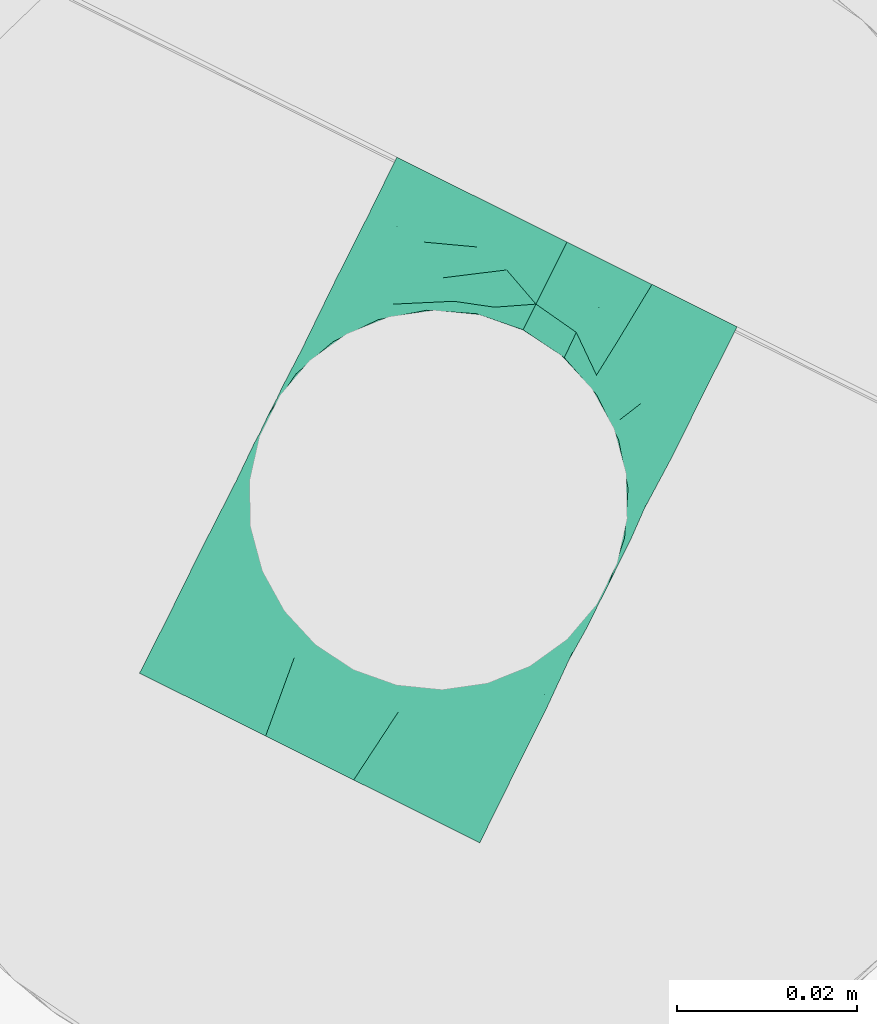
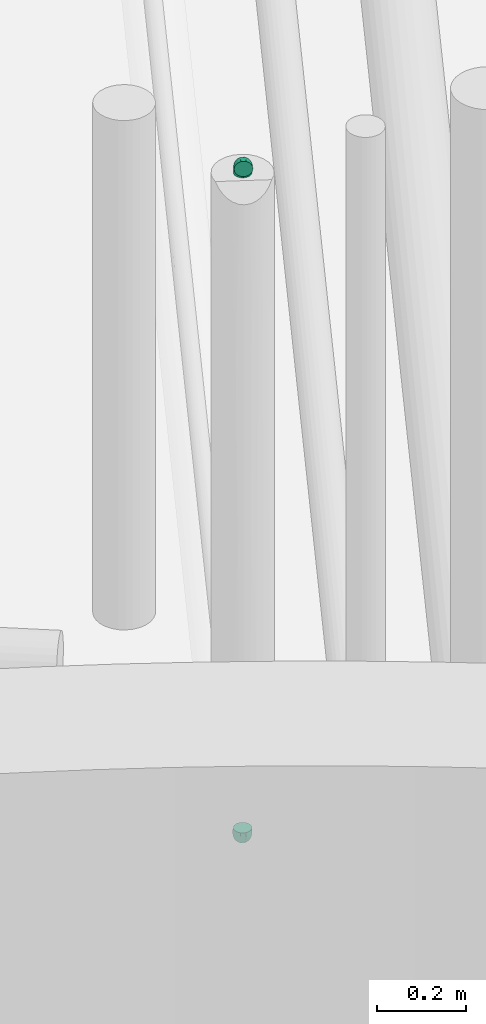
# One storey, part 37 of 47: 2 flow fittings.
"""IFC2X3 building model written with IfcOpenShell, lengths in metres."""

from ifc_helpers import new_model, entity, si_unit, converted_unit, derived_unit, direction, frame, origin, place, context, subcontext, project, spatial, faceted_brep, source, transform, mapped, type_object, type_shapes, element, save


model = new_model("IFC2X3")

# Units and contexts
model_context = context("Model", 3, precision=1e-05, world=origin(), true_north=direction((0.894925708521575, 0.446215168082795)))
context_of_model = context(None, 3, precision=1e-05, world=origin(), true_north=direction((0.894925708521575, 0.446215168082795)))
body_context = subcontext(model_context, "Body", "Model", "MODEL_VIEW")
ifc_project = project(units=[si_unit("LENGTHUNIT", "METRE"), si_unit("AREAUNIT", "SQUARE_METRE"), si_unit("VOLUMEUNIT", "CUBIC_METRE"), converted_unit("PLANEANGLEUNIT", "DEGREE", entity("IfcRatioMeasure", 0.0174532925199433), si_unit("PLANEANGLEUNIT", "RADIAN"), dimensions=[0, 0, 0, 0, 0, 0, 0]), si_unit("MASSUNIT", "GRAM", prefix="KILO"), si_unit("TIMEUNIT", "SECOND"), si_unit("FREQUENCYUNIT", "HERTZ"), si_unit("THERMODYNAMICTEMPERATUREUNIT", "DEGREE_CELSIUS"), derived_unit("THERMALTRANSMITTANCEUNIT", [(si_unit("MASSUNIT", "GRAM", prefix="KILO"), 1), (si_unit("THERMODYNAMICTEMPERATUREUNIT", "KELVIN"), -1), (si_unit("TIMEUNIT", "SECOND"), -3)]), derived_unit("VOLUMETRICFLOWRATEUNIT", [(si_unit("LENGTHUNIT", "METRE"), 3), (si_unit("TIMEUNIT", "SECOND"), -1)]), si_unit("ELECTRICCURRENTUNIT", "AMPERE"), si_unit("ELECTRICVOLTAGEUNIT", "VOLT"), si_unit("POWERUNIT", "WATT"), si_unit("FORCEUNIT", "NEWTON", prefix="KILO"), si_unit("ILLUMINANCEUNIT", "LUX"), si_unit("LUMINOUSFLUXUNIT", "LUMEN"), si_unit("LUMINOUSINTENSITYUNIT", "CANDELA"), si_unit("PRESSUREUNIT", "PASCAL")], contexts=[model_context, context_of_model])

# Site, building, storey
site_placement = place(None, frame((218.228324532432, 584.720189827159, 0.0), z_axis=(0.0, 0.0, 1.0), x_axis=(0.446215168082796, 0.894925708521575, 0.0)))
site = spatial("IfcSite", under=ifc_project, at=site_placement, Name="Default", CompositionType="ELEMENT")
building_placement = place(site_placement, origin())
building = spatial("IfcBuilding", under=site, at=building_placement, CompositionType="ELEMENT")
storey_placement = place(building_placement, frame((0.0, 0.0, 4.69)))
storey = spatial("IfcBuildingStorey", under=building, at=storey_placement, Name="1 - Piano Primo", CompositionType="ELEMENT", Elevation=4.69)

# Flow fittings
pipe_fitting_type = type_object("IfcPipeFittingType", Name="Standard", PredefinedType="NOTDEFINED")
shared_shape = source(origin(), body_context, "Body", "Brep", [
    faceted_brep([(-0.0319999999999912, 0.0105499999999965, -0.0182731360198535), (-0.0319999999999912, 0.00546108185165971, -0.0203810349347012), (-0.0319999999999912, 0.0, -0.0211000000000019), (-0.0319999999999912, -0.00546108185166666, -0.0203810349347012), (-0.0319999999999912, -0.0105500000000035, -0.0182731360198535), (-0.0319999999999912, -0.0149199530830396, -0.0149199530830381), (-0.0319999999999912, -0.0182731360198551, -0.0105500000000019), (-0.0319999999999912, -0.0203810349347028, -0.00546108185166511), (-0.0319999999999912, -0.0211000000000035, 0.0), (-0.0319999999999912, -0.0203810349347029, 0.00546108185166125), (-0.0319999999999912, -0.0182731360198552, 0.0105499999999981), (-0.0319999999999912, -0.0149199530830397, 0.0149199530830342), (-0.0319999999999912, -0.0105500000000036, 0.0182731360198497), (-0.0319999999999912, -0.00546108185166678, 0.0203810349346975), (-0.0319999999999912, 0.0, 0.0210999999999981), (-0.0319999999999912, 0.00546108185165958, 0.0203810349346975), (-0.0319999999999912, 0.00800554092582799, 0.0193270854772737), (-0.0319999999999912, 0.0105499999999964, 0.0182731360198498), (-0.0319999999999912, 0.0149199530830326, 0.0149199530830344), (-0.0319999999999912, 0.0182731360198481, 0.0105499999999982), (-0.0319999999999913, 0.0203810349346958, 0.00546108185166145), (-0.0319999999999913, 0.0210999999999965, 0.0), (-0.0319999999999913, 0.0203810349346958, -0.00546108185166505), (-0.0319999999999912, 0.0182731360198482, -0.0105500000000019), (-0.0319999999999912, 0.0149199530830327, -0.014919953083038), (0.0, 0.0319999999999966, -0.0211000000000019), (-0.00546108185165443, 0.0319999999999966, -0.0203810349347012), (-0.0105499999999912, 0.0319999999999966, -0.0182731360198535), (-0.0149199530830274, 0.0319999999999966, -0.014919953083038), (-0.0182731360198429, 0.0319999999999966, -0.0105500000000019), (-0.0203810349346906, 0.0319999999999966, -0.00546108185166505), (-0.0210999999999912, 0.0319999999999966, 0.0), (-0.0203810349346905, 0.0319999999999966, 0.00546108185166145), (-0.0182731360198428, 0.0319999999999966, 0.0105499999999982), (-0.0149199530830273, 0.0319999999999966, 0.0149199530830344), (-0.0105499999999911, 0.0319999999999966, 0.0182731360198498), (-0.00800554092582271, 0.0319999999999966, 0.0193270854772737), (-0.0054610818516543, 0.0319999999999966, 0.0203810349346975), (0.0, 0.0319999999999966, 0.0210999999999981), (0.00546108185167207, 0.0319999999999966, 0.0203810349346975), (0.0105500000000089, 0.0319999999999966, 0.0182731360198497), (0.014919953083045, 0.0319999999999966, 0.0149199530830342), (0.0165965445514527, 0.0319999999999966, 0.0127349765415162), (0.0182731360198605, 0.0319999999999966, 0.0105499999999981), (0.0203810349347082, 0.0319999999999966, 0.00546108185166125), (0.0211000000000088, 0.0319999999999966, 0.0), (0.0203810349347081, 0.0319999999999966, -0.00546108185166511), (0.0182731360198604, 0.0319999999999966, -0.0105500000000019), (0.0149199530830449, 0.0319999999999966, -0.0149199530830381), (0.0105500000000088, 0.0319999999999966, -0.0182731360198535), (0.00546108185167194, 0.0319999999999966, -0.0203810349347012), (-0.00222604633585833, 0.023728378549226, 0.0210713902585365), (0.00334042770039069, 0.0236615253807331, 0.0206549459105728), (-0.00900645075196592, -0.00960577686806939, 0.014276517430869), (-0.0209292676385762, -0.0130218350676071, 0.0154568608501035), (-0.0145908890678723, -0.0153912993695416, 0.0101692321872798), (-0.0217190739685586, -0.0190549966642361, 0.0), (-0.0220282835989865, -0.0191631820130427, 0.00633714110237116), (0.0170981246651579, 0.0147219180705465, 0.00657454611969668), (0.0192914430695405, 0.0230467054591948, 0.00652112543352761), (0.0165175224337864, 0.0200572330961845, 0.0110652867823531), (-0.0238201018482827, -0.0169140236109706, 0.0116484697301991), (0.00422109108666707, 0.00733524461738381, 0.0174775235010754), (-0.00183936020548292, -0.00157306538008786, 0.0165161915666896), (0.00494762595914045, 0.000859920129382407, 0.0133740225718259), (-0.0231100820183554, -0.0085835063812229, 0.0188172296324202), (-0.0268497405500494, 0.00624646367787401, 0.0203052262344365), (-0.0237283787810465, 0.00222604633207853, 0.0210713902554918), (0.00636919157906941, -0.00389652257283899, 0.00481660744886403), (0.00885765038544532, 0.00100436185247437, 0.00856309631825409), (0.00317363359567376, -0.0049364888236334, 0.00916667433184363), (0.0190549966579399, 0.021719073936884, 0.0), (-0.0249753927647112, 0.0127272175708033, 0.0176991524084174), (-0.0219437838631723, 0.00803535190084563, 0.0202256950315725), (-0.0080353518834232, 0.0219437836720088, 0.0202256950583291), (-0.0127272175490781, 0.0249753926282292, 0.017699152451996), (-0.0135012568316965, 0.0177999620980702, 0.0192321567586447), (-0.0259094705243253, 0.0169310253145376, 0.0140445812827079), (-0.0243638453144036, -0.00336513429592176, 0.0206817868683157), (-0.0083182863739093, -0.00215621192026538, 0.0188085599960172), (-0.0155459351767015, -0.00207489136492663, 0.0202758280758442), (-0.014962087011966, -0.00661982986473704, 0.0184646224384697), (-0.024116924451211, 0.0234834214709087, 0.00540852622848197), (-0.0260761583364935, 0.02023403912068, 0.00952662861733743), (0.0131866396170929, 0.0228304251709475, 0.0156902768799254), (0.0177597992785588, 0.0259911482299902, 0.0108087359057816), (-0.0196183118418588, 0.0196183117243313, 0.0153381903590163), (0.00836704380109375, 0.0205044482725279, 0.0185948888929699), (-0.0054260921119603, 0.0157915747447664, 0.0210819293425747), (-0.0119915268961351, 0.0119915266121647, 0.0207723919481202), (-0.00791438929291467, 0.00583732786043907, 0.0207972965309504), (-0.000718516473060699, -0.00512241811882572, 0.0130949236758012), (-0.0157915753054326, 0.00542609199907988, 0.0210819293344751), (-0.0175404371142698, 0.0125520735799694, 0.0196189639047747), (-0.00624646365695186, 0.0268497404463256, 0.0203052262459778), (-0.0030660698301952, -0.011302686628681, 0.0), (0.000544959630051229, -0.00927179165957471, 0.00474379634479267), (-0.00924044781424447, -0.0152715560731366, 0.00513668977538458), (-0.0025011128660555, 0.00396354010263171, 0.0192243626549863), (0.0111873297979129, 0.0121560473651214, 0.0142858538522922), (0.0142348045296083, 0.013520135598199, 0.0113438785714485), (-0.021173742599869, 0.0270533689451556, 0.00642753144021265), (0.0170580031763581, 0.0116795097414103, 0.0), (-0.0209433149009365, 0.0244619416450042, 0.0099283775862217), (-0.0169310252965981, 0.0259094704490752, 0.0140445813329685), (0.00815725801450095, 0.0134412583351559, 0.0171881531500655), (0.00158972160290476, 0.0138945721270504, 0.0201812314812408), (-0.0242925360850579, 0.0242925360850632, 0.0), (-0.0156139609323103, -0.0173765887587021, 0.00665048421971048), (-0.0116795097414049, -0.0170580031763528, 0.0), (0.00554737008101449, -0.00554737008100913, 0.0), (0.0113026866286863, 0.00306606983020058, 0.0), (0.0108450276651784, 0.00147671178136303, 0.0045400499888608), (0.0112958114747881, 0.00704585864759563, 0.0110546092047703), (-0.0180945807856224, 0.016544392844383, 0.0178760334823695), (-0.00497912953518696, -0.0112747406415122, 0.00913935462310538), (-0.00893572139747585, -0.00624353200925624, 0.0168798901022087), (-0.0156916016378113, 0.021034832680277, 0.0171095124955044), (-0.00342686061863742, 0.0112043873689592, 0.0208340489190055), (0.0134913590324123, 0.00703921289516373, 0.00704441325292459), (0.00841568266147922, 0.00627762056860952, 0.0138629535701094), (0.0139147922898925, 0.0140606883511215, -0.0120870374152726), (0.0170731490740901, 0.0143997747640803, -0.00631163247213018), (0.0133973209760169, 0.00669108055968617, -0.00679612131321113), (-0.0167699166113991, 0.00347561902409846, -0.0210973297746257), (-0.0230301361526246, 0.00785302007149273, -0.0201559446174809), (-0.0147344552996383, 0.0101848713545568, -0.0206819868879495), (-0.0249600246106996, 0.0021654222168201, -0.0210570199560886), (-0.0269235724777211, 0.0219306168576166, -0.00396891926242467), (-0.0108637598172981, -0.00653031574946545, -0.0173920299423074), (-0.0194617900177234, -0.00823414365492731, -0.018502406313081), (-0.0125598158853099, -0.00220699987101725, -0.0197802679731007), (-0.0268338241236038, 0.0205122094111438, -0.00828818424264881), (-0.024883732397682, 0.0171837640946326, -0.0142474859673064), (-0.0228721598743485, -0.0192710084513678, -0.00648971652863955), (-0.0193464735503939, -0.0164084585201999, -0.0109522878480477), (-0.0143997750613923, -0.0170731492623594, -0.00631163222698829), (-0.0266001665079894, -0.0170138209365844, -0.0120648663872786), (-0.00785301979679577, 0.0230301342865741, -0.0201559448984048), (-0.0252598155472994, 0.0126864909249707, -0.0176618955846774), (-0.0230841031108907, -0.0033100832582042, -0.0206322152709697), (-0.020019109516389, 0.0119073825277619, -0.0192649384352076), (-0.0225715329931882, -0.0131689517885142, -0.0156588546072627), (0.0164084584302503, 0.0193464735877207, -0.0109522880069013), (0.0170138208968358, 0.0266001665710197, -0.0120648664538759), (0.019271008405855, 0.0228721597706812, -0.00648971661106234), (-0.0105318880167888, -0.0106441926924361, -0.0140486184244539), (-0.017183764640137, 0.0248837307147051, -0.014247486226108), (-0.0266864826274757, -0.0086126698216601, -0.0191036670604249), (0.0033100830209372, 0.0230841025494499, -0.0206322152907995), (-0.0222937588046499, 0.0222937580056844, -0.0105497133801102), (-0.020353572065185, 0.0203535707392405, -0.0142844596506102), (-0.0221527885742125, 0.0262370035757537, -0.00460941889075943), (-0.00807833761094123, 0.00807833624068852, -0.0210204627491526), (-0.0126864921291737, 0.0252598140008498, -0.0176618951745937), (-0.0021654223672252, 0.0249600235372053, -0.0210570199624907), (0.0131689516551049, 0.022571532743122, -0.0156588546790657), (-0.0202234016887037, 0.0270426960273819, -0.00870077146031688), (0.00220699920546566, 0.0125598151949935, -0.0197802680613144), (0.00404629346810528, 0.00564706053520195, -0.0168858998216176), (-0.00350668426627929, 0.00350668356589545, -0.0194008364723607), (0.00861266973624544, 0.0266864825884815, -0.019103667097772), (0.00823414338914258, 0.019461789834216, -0.0185024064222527), (0.00902992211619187, 0.00178506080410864, -0.00926949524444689), (0.00883192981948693, -0.00110649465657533, -0.00471271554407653), (-0.00347562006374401, 0.0167699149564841, -0.0210973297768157), (0.0120396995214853, 0.00786660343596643, -0.010643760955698), (-0.00165984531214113, -0.00597168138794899, -0.0130195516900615), (-0.00858690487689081, -0.0124343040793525, -0.0106324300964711), (0.0106441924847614, 0.0105318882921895, -0.0140486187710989), (0.00627836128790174, 0.0123278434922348, -0.0179828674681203), (-0.0164380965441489, 0.0206141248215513, -0.0168366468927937), (-0.0160857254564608, 0.0160857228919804, -0.0188434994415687), (-0.0206141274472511, 0.0164380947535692, -0.0168366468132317), (-0.0106154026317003, 0.0161949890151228, -0.0203950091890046), (-0.00669108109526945, -0.0133973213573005, -0.00679612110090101), (0.00175955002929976, -0.00801862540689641, -0.00555203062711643), (-0.00301871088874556, -0.00338565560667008, -0.0160140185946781), (0.0034281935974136, -0.00342819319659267, -0.0108392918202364), (-0.00243028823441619, -0.00914614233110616, -0.00983204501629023), (-0.00670255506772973, -0.00186855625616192, -0.0184300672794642), (0.00640730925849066, 0.00275638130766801, -0.0134309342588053)], [[[0, 1, 2, 3, 4, 5, 6, 7, 8, 9, 10, 11, 12, 13, 14, 15, 16, 17, 18, 19, 20, 21, 22, 23, 24]], [[25, 26, 27, 28, 29, 30, 31, 32, 33, 34, 35, 36, 37, 38, 39, 40, 41, 42, 43, 44, 45, 46, 47, 48, 49, 50]], [[38, 51, 52]], [[53, 54, 55]], [[9, 56, 57]], [[58, 59, 60]], [[61, 11, 10]], [[9, 8, 56]], [[62, 63, 64]], [[54, 11, 61]], [[54, 65, 12]], [[17, 16, 15, 66]], [[15, 14, 67]], [[68, 69, 70]], [[45, 44, 71]], [[72, 66, 73]], [[74, 75, 76]], [[77, 19, 18]], [[78, 14, 13]], [[66, 72, 17]], [[79, 80, 81]], [[82, 20, 83]], [[84, 85, 41]], [[21, 20, 82]], [[83, 77, 86]], [[87, 84, 40]], [[72, 18, 17]], [[88, 89, 90]], [[70, 64, 91]], [[73, 92, 93]], [[39, 38, 52]], [[73, 67, 92]], [[84, 41, 40]], [[40, 39, 87]], [[36, 35, 94, 37]], [[59, 44, 43]], [[95, 96, 97]], [[35, 34, 75]], [[63, 62, 98]], [[85, 59, 43]], [[64, 70, 69]], [[74, 88, 51]], [[99, 100, 84]], [[101, 33, 32]], [[59, 102, 71]], [[103, 86, 104]], [[105, 106, 62]], [[82, 101, 107]], [[9, 57, 10]], [[94, 35, 75]], [[77, 83, 19]], [[97, 108, 109]], [[34, 33, 104]], [[51, 38, 37]], [[107, 101, 31]], [[12, 65, 13]], [[54, 12, 11]], [[110, 111, 112]], [[100, 99, 113]], [[109, 57, 56]], [[57, 108, 61]], [[104, 75, 34]], [[74, 76, 89]], [[88, 74, 89]], [[106, 87, 52]], [[78, 67, 14]], [[80, 90, 92]], [[93, 89, 76]], [[72, 114, 77]], [[70, 91, 115]], [[63, 79, 116]], [[115, 53, 55]], [[70, 96, 68]], [[58, 60, 100]], [[71, 44, 59]], [[84, 87, 105]], [[85, 43, 42, 41]], [[81, 54, 53]], [[65, 81, 78]], [[106, 52, 51]], [[87, 39, 52]], [[103, 104, 33]], [[104, 86, 117]], [[72, 77, 18]], [[83, 86, 103]], [[82, 83, 103]], [[20, 19, 83]], [[57, 61, 10]], [[54, 61, 55]], [[101, 82, 103]], [[82, 107, 21]], [[65, 78, 13]], [[67, 78, 80]], [[86, 114, 117]], [[114, 72, 93]], [[92, 89, 93]], [[106, 51, 88]], [[98, 79, 63]], [[118, 88, 90]], [[80, 92, 67]], [[90, 89, 92]], [[119, 102, 58]], [[102, 59, 58]], [[114, 93, 76]], [[72, 73, 93]], [[55, 97, 115]], [[96, 70, 115]], [[108, 97, 55]], [[96, 110, 68]], [[95, 97, 109]], [[97, 96, 115]], [[110, 96, 95]], [[112, 119, 69]], [[68, 112, 69]], [[119, 113, 69]], [[102, 119, 111]], [[64, 63, 91]], [[113, 64, 69]], [[118, 98, 106]], [[113, 120, 64]], [[62, 120, 105]], [[119, 58, 100]], [[113, 99, 120]], [[100, 113, 119]], [[84, 100, 60]], [[110, 112, 68]], [[111, 119, 112]], [[117, 76, 75]], [[114, 86, 77]], [[76, 117, 114]], [[104, 117, 75]], [[106, 98, 62]], [[79, 90, 80]], [[90, 79, 98]], [[78, 81, 80]], [[54, 81, 65]], [[116, 79, 81]], [[105, 120, 99]], [[62, 64, 120]], [[116, 91, 63]], [[115, 91, 53]], [[81, 53, 116]], [[116, 53, 91]], [[94, 75, 74]], [[74, 51, 94]], [[51, 37, 94]], [[73, 66, 67]], [[15, 67, 66]], [[85, 84, 60]], [[59, 85, 60]], [[33, 101, 103]], [[31, 101, 32]], [[98, 118, 90]], [[106, 88, 118]], [[61, 108, 55]], [[109, 108, 57]], [[84, 105, 99]], [[106, 105, 87]], [[121, 122, 123]], [[124, 125, 126]], [[124, 127, 125]], [[127, 2, 1]], [[21, 128, 22]], [[129, 130, 131]], [[132, 133, 23]], [[134, 135, 136]], [[24, 23, 133]], [[5, 137, 6]], [[26, 138, 27]], [[0, 24, 139]], [[109, 56, 134]], [[140, 3, 2]], [[134, 7, 6]], [[125, 141, 126]], [[142, 5, 4]], [[143, 144, 145]], [[135, 142, 146]], [[29, 28, 147]], [[137, 134, 6]], [[4, 148, 142]], [[148, 140, 130]], [[148, 4, 3]], [[50, 149, 25]], [[130, 140, 131]], [[21, 107, 128]], [[150, 151, 133]], [[31, 30, 152]], [[46, 45, 71]], [[126, 153, 124]], [[132, 22, 128]], [[154, 147, 28]], [[26, 155, 138]], [[26, 25, 155]], [[48, 156, 49]], [[144, 48, 47]], [[150, 157, 147]], [[158, 159, 160]], [[161, 149, 50]], [[161, 156, 162]], [[125, 1, 0]], [[163, 123, 164]], [[165, 149, 158]], [[157, 150, 152]], [[161, 50, 49]], [[139, 24, 133]], [[145, 122, 143]], [[121, 123, 166]], [[56, 8, 7]], [[146, 167, 168]], [[169, 162, 156]], [[159, 158, 170]], [[47, 46, 145]], [[171, 172, 173]], [[150, 132, 152]], [[28, 27, 154]], [[165, 153, 174]], [[151, 150, 147]], [[139, 141, 125]], [[123, 102, 111]], [[95, 175, 176]], [[164, 123, 111]], [[159, 177, 160]], [[178, 176, 179]], [[178, 164, 176]], [[144, 156, 48]], [[156, 143, 121]], [[158, 149, 162]], [[155, 149, 165]], [[170, 169, 159]], [[158, 160, 153]], [[146, 142, 130]], [[137, 142, 135]], [[127, 140, 2]], [[124, 153, 131]], [[124, 131, 140]], [[180, 129, 131]], [[168, 136, 135]], [[56, 7, 134]], [[46, 71, 145]], [[102, 145, 71]], [[27, 138, 154]], [[154, 138, 174]], [[173, 133, 151]], [[125, 0, 139]], [[169, 166, 181]], [[178, 179, 167]], [[177, 159, 181]], [[146, 130, 129]], [[125, 127, 1]], [[140, 127, 124]], [[149, 155, 25]], [[138, 155, 165]], [[174, 126, 172]], [[126, 174, 153]], [[158, 153, 165]], [[131, 153, 160]], [[175, 109, 136]], [[109, 134, 136]], [[145, 102, 122]], [[102, 123, 122]], [[152, 128, 107]], [[128, 152, 132]], [[31, 152, 107]], [[152, 30, 157]], [[133, 132, 150]], [[23, 22, 132]], [[30, 29, 157]], [[147, 157, 29]], [[154, 174, 172]], [[165, 174, 138]], [[176, 164, 110]], [[164, 111, 110]], [[163, 164, 178]], [[95, 109, 175]], [[176, 175, 179]], [[176, 110, 95]], [[181, 163, 178]], [[166, 123, 163]], [[181, 178, 167]], [[169, 181, 159]], [[181, 166, 163]], [[121, 166, 169]], [[156, 121, 169]], [[122, 121, 143]], [[168, 179, 175]], [[167, 146, 177]], [[136, 168, 175]], [[135, 146, 168]], [[167, 179, 168]], [[181, 167, 177]], [[180, 131, 160]], [[146, 129, 177]], [[160, 177, 180]], [[177, 129, 180]], [[156, 161, 49]], [[149, 161, 162]], [[145, 144, 47]], [[156, 144, 143]], [[140, 148, 3]], [[142, 148, 130]], [[142, 137, 5]], [[134, 137, 135]], [[171, 151, 147]], [[151, 171, 173]], [[147, 154, 171]], [[154, 172, 171]], [[141, 173, 172]], [[139, 133, 173]], [[173, 141, 139]], [[126, 141, 172]], [[158, 162, 170]], [[169, 170, 162]]]),
])
type_shapes(pipe_fitting_type, [shared_shape])
for number, where, z_axis, x_axis, name in (
    (1, (-68.5068662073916, -4.15107899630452, 4.81999999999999), (0.0, -1.0, 0.0), (0.0, 0.0, 1.0), "M_Gomito - Saldato - Generico:Standard"),
    (2, (-68.5068662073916, -4.15107899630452, 2.96), (0.0, -1.0, 0.0), (0.0, 0.0, -1.0), "M_Gomito - Saldato - Generico:Standard"),
):
    element("IfcFlowFitting", number, at=place(storey_placement, frame(where, z_axis=z_axis, x_axis=x_axis)), inside=storey, type_object=pipe_fitting_type, Name=name, ObjectType="Standard", context=body_context, shape_type="MappedRepresentation", body=[
        mapped(shared_shape, transform((0.0, 0.0, 0.0), scale=1.0)),
    ])

save(model, "model.ifc")
